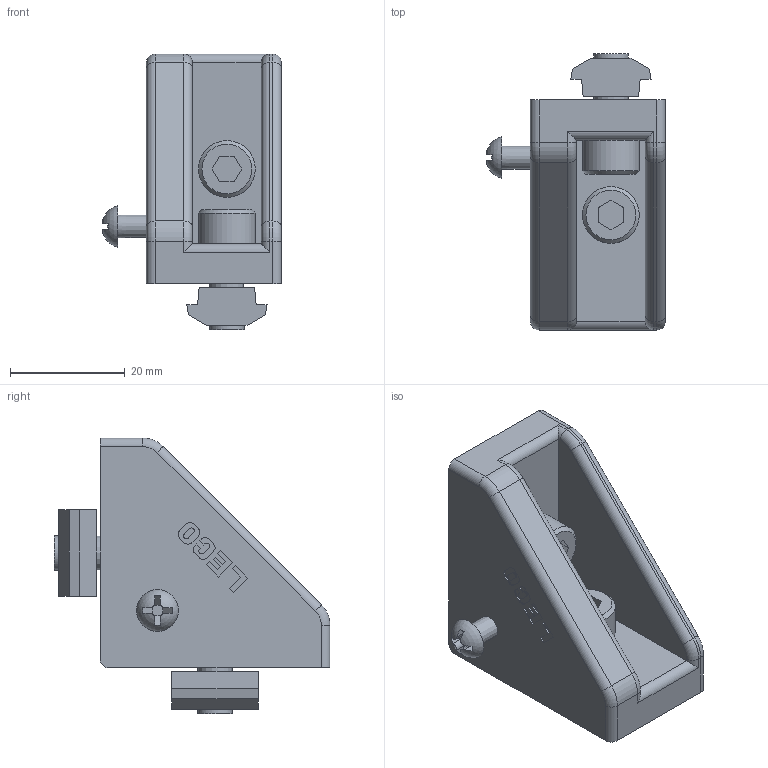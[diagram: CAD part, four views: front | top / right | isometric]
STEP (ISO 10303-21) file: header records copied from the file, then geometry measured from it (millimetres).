
FILE_DESCRIPTION(('STEP AP214'),'1');
FILE_NAME('BL4F-B.stp','2021-12-27T04:39:52',(' '),(' '),'Spatial InterOp 3D',' ',' ');
FILE_SCHEMA(('AUTOMOTIVE_DESIGN { 1 0 10303 214 1 1 1 1 }'));
Length unit declared in the file: millimetre
Products named in the file (7): BL4F-B; NF40-M6; BL4F-H; ねじ: 穴付き - M6.0 x 15.0; ねじ: 丸頭 - M4.0 x 10.0
Assembly tree (6 placements, depth 2):
  BL4F-B
    NF40-M6
    (unnamed)
    BL4F-H
    ねじ: 穴付き - M6.0 x 15.0
    ねじ: 穴付き - M6.0 x 15.0
    ねじ: 丸頭 - M4.0 x 10.0
Bounding box: 31.14 x 48 x 48 mm (x, y, z)
Volume: 22035.7 mm3; surface area: 10584.3 mm2
Topology: 6 solids, 8 shells, 246 faces, 616 edges, 401 vertices
Faces by surface type: plane 177, cylinder 55, torus 8, cone 5, sphere 1
Full cylindrical faces by diameter (mm): 4 x2, 6 x2, 6.5 x2, 9.87 x2
Entity records: 9355 total; most frequent: CARTESIAN_POINT 1288, DIRECTION 1233, ORIENTED_EDGE 1200, EDGE_CURVE 600, LINE 465, VECTOR 465, VERTEX_POINT 399, AXIS2_PLACEMENT_3D 384
